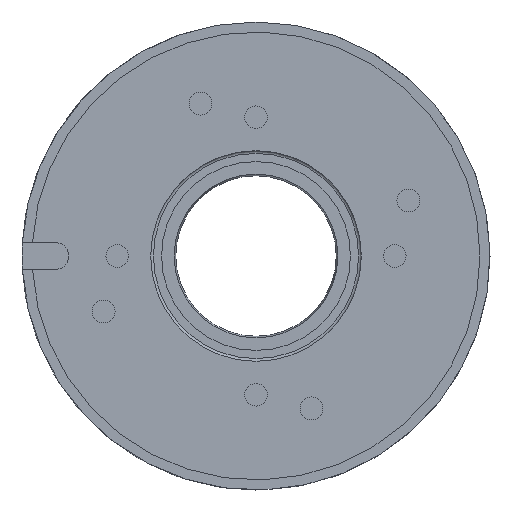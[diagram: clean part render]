
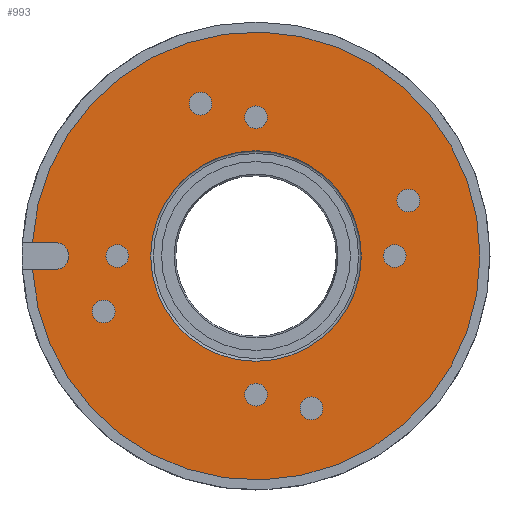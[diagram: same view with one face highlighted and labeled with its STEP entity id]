
A CAD part, left-side view. The second image highlights one B-rep face of the part: STEP entity #993.
In plain terms, the highlighted planar face has unit normal (-1, 0, 0).
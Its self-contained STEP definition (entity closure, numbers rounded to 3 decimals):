
#1 = DIRECTION ( 'NONE',  ( -1., 0., 0. ) ) ;
#14 = CARTESIAN_POINT ( 'NONE',  ( 0., 66.88, -4. ) ) ;
#56 = AXIS2_PLACEMENT_3D ( 'NONE', #516, #404, #1452 ) ;
#80 = VECTOR ( 'NONE', #1208, 1000. ) ;
#89 = CIRCLE ( 'NONE', #309, 3.4 ) ;
#112 = DIRECTION ( 'NONE',  ( 0., 0., 1. ) ) ;
#114 = CIRCLE ( 'NONE', #336, 3.4 ) ;
#126 = ORIENTED_EDGE ( 'NONE', *, *, #857, .F. ) ;
#133 = DIRECTION ( 'NONE',  ( -1., 0., 0. ) ) ;
#157 = CARTESIAN_POINT ( 'NONE',  ( 0., 0., -41.5 ) ) ;
#159 = EDGE_CURVE ( 'NONE', #683, #1004, #1533, .T. ) ;
#165 = FACE_BOUND ( 'NONE', #700, .T. ) ;
#167 = ORIENTED_EDGE ( 'NONE', *, *, #1572, .F. ) ;
#179 = VERTEX_POINT ( 'NONE', #665 ) ;
#191 = EDGE_CURVE ( 'NONE', #1403, #1004, #807, .T. ) ;
#207 = CARTESIAN_POINT ( 'NONE',  ( 0., -3.4, 41.5 ) ) ;
#217 = CIRCLE ( 'NONE', #1453, 3.4 ) ;
#257 = EDGE_CURVE ( 'NONE', #742, #742, #1478, .T. ) ;
#262 = DIRECTION ( 'NONE',  ( 0., 0., 1. ) ) ;
#277 = FACE_BOUND ( 'NONE', #1285, .T. ) ;
#309 = AXIS2_PLACEMENT_3D ( 'NONE', #1552, #632, #504 ) ;
#313 = DIRECTION ( 'NONE',  ( -1., 0., 0. ) ) ;
#330 = EDGE_LOOP ( 'NONE', ( #979 ) ) ;
#331 = EDGE_CURVE ( 'NONE', #520, #520, #898, .T. ) ;
#332 = AXIS2_PLACEMENT_3D ( 'NONE', #157, #313, #1073 ) ;
#334 = VERTEX_POINT ( 'NONE', #603 ) ;
#336 = AXIS2_PLACEMENT_3D ( 'NONE', #1642, #457, #1500 ) ;
#353 = EDGE_CURVE ( 'NONE', #1535, #1535, #843, .T. ) ;
#363 = ORIENTED_EDGE ( 'NONE', *, *, #353, .F. ) ;
#365 = DIRECTION ( 'NONE',  ( 0., 1., 0. ) ) ;
#395 = DIRECTION ( 'NONE',  ( 0., 0., 1. ) ) ;
#399 = CARTESIAN_POINT ( 'NONE',  ( 0., -13.188, -45.575 ) ) ;
#402 = CARTESIAN_POINT ( 'NONE',  ( 0., 45.575, -16.588 ) ) ;
#404 = DIRECTION ( 'NONE',  ( -1., 0., 0. ) ) ;
#413 = EDGE_LOOP ( 'NONE', ( #1050 ) ) ;
#415 = VERTEX_POINT ( 'NONE', #676 ) ;
#431 = FACE_BOUND ( 'NONE', #1129, .T. ) ;
#432 = EDGE_LOOP ( 'NONE', ( #1470 ) ) ;
#436 = FACE_BOUND ( 'NONE', #1381, .T. ) ;
#457 = DIRECTION ( 'NONE',  ( -1., 0., 0. ) ) ;
#470 = CIRCLE ( 'NONE', #630, 3.4 ) ;
#504 = DIRECTION ( 'NONE',  ( 0., 0., -1. ) ) ;
#511 = CARTESIAN_POINT ( 'NONE',  ( 0., 41.5, 3.4 ) ) ;
#516 = CARTESIAN_POINT ( 'NONE',  ( 0., 0., 0. ) ) ;
#520 = VERTEX_POINT ( 'NONE', #1560 ) ;
#523 = DIRECTION ( 'NONE',  ( -1., 0., 0. ) ) ;
#549 = EDGE_CURVE ( 'NONE', #683, #179, #1283, .T. ) ;
#551 = CARTESIAN_POINT ( 'NONE',  ( 0., 41.5, 0. ) ) ;
#562 = VERTEX_POINT ( 'NONE', #1614 ) ;
#568 = EDGE_LOOP ( 'NONE', ( #1162 ) ) ;
#595 = VERTEX_POINT ( 'NONE', #207 ) ;
#600 = VECTOR ( 'NONE', #901, 1000. ) ;
#603 = CARTESIAN_POINT ( 'NONE',  ( 0., -45.575, 13.188 ) ) ;
#620 = CARTESIAN_POINT ( 'NONE',  ( 0., 60., -4. ) ) ;
#630 = AXIS2_PLACEMENT_3D ( 'NONE', #1308, #523, #1577 ) ;
#632 = DIRECTION ( 'NONE',  ( -1., 0., 0. ) ) ;
#665 = CARTESIAN_POINT ( 'NONE',  ( 0., 60., -4. ) ) ;
#676 = CARTESIAN_POINT ( 'NONE',  ( 0., 13.188, 45.575 ) ) ;
#681 = FACE_BOUND ( 'NONE', #413, .T. ) ;
#683 = VERTEX_POINT ( 'NONE', #14 ) ;
#690 = FACE_BOUND ( 'NONE', #779, .T. ) ;
#700 = EDGE_LOOP ( 'NONE', ( #1275 ) ) ;
#703 = FACE_BOUND ( 'NONE', #330, .T. ) ;
#705 = EDGE_CURVE ( 'NONE', #1581, #1581, #714, .T. ) ;
#714 = CIRCLE ( 'NONE', #955, 3.4 ) ;
#742 = VERTEX_POINT ( 'NONE', #511 ) ;
#757 = EDGE_CURVE ( 'NONE', #562, #562, #217, .T. ) ;
#779 = EDGE_LOOP ( 'NONE', ( #1065 ) ) ;
#803 = CARTESIAN_POINT ( 'NONE',  ( 0., 3.4, -41.5 ) ) ;
#807 = LINE ( 'NONE', #914, #80 ) ;
#843 = CIRCLE ( 'NONE', #1179, 3.4 ) ;
#857 = EDGE_CURVE ( 'NONE', #179, #1403, #1484, .T. ) ;
#881 = EDGE_CURVE ( 'NONE', #415, #415, #470, .T. ) ;
#887 = DIRECTION ( 'NONE',  ( -1., 0., 0. ) ) ;
#898 = CIRCLE ( 'NONE', #924, 31.5 ) ;
#900 = CIRCLE ( 'NONE', #332, 3.4 ) ;
#901 = DIRECTION ( 'NONE',  ( 0., -1., 0. ) ) ;
#904 = CARTESIAN_POINT ( 'NONE',  ( 0., -16.588, -45.575 ) ) ;
#907 = DIRECTION ( 'NONE',  ( -1., 0., 0. ) ) ;
#914 = CARTESIAN_POINT ( 'NONE',  ( 0., 60., 4. ) ) ;
#924 = AXIS2_PLACEMENT_3D ( 'NONE', #1673, #887, #112 ) ;
#926 = VERTEX_POINT ( 'NONE', #803 ) ;
#941 = DIRECTION ( 'NONE',  ( -1., 0., 0. ) ) ;
#947 = CARTESIAN_POINT ( 'NONE',  ( 0., -31.5, 0. ) ) ;
#951 = AXIS2_PLACEMENT_3D ( 'NONE', #551, #907, #262 ) ;
#955 = AXIS2_PLACEMENT_3D ( 'NONE', #402, #1256, #1386 ) ;
#968 = EDGE_CURVE ( 'NONE', #926, #926, #900, .T. ) ;
#979 = ORIENTED_EDGE ( 'NONE', *, *, #705, .F. ) ;
#993 = ADVANCED_FACE ( 'NONE', ( #277, #436, #681, #1603, #165, #431, #703, #1232, #1207, #690 ), #1218, .T. ) ;
#1004 = VERTEX_POINT ( 'NONE', #1488 ) ;
#1050 = ORIENTED_EDGE ( 'NONE', *, *, #968, .F. ) ;
#1065 = ORIENTED_EDGE ( 'NONE', *, *, #331, .F. ) ;
#1073 = DIRECTION ( 'NONE',  ( 0., 1., 0. ) ) ;
#1080 = DIRECTION ( 'NONE',  ( 0., 0., 1. ) ) ;
#1129 = EDGE_LOOP ( 'NONE', ( #363 ) ) ;
#1150 = AXIS2_PLACEMENT_3D ( 'NONE', #1167, #1565, #395 ) ;
#1154 = EDGE_LOOP ( 'NONE', ( #1579, #1532, #1684, #126 ) ) ;
#1162 = ORIENTED_EDGE ( 'NONE', *, *, #257, .F. ) ;
#1167 = CARTESIAN_POINT ( 'NONE',  ( 0., 60., 0. ) ) ;
#1179 = AXIS2_PLACEMENT_3D ( 'NONE', #904, #1, #365 ) ;
#1190 = CARTESIAN_POINT ( 'NONE',  ( 0., -41.5, 0. ) ) ;
#1207 = FACE_OUTER_BOUND ( 'NONE', #1154, .T. ) ;
#1208 = DIRECTION ( 'NONE',  ( 0., 1., 0. ) ) ;
#1218 = PLANE ( 'NONE',  #1652 ) ;
#1232 = FACE_BOUND ( 'NONE', #568, .T. ) ;
#1256 = DIRECTION ( 'NONE',  ( -1., 0., 0. ) ) ;
#1275 = ORIENTED_EDGE ( 'NONE', *, *, #1661, .F. ) ;
#1283 = LINE ( 'NONE', #620, #600 ) ;
#1285 = EDGE_LOOP ( 'NONE', ( #167 ) ) ;
#1308 = CARTESIAN_POINT ( 'NONE',  ( 0., 16.588, 45.575 ) ) ;
#1357 = CARTESIAN_POINT ( 'NONE',  ( 0., 60., 4. ) ) ;
#1381 = EDGE_LOOP ( 'NONE', ( #1498 ) ) ;
#1386 = DIRECTION ( 'NONE',  ( 0., 0., 1. ) ) ;
#1403 = VERTEX_POINT ( 'NONE', #1357 ) ;
#1452 = DIRECTION ( 'NONE',  ( 0., 0., 1. ) ) ;
#1453 = AXIS2_PLACEMENT_3D ( 'NONE', #1190, #133, #1658 ) ;
#1457 = CARTESIAN_POINT ( 'NONE',  ( 0., 45.575, -13.188 ) ) ;
#1470 = ORIENTED_EDGE ( 'NONE', *, *, #881, .F. ) ;
#1478 = CIRCLE ( 'NONE', #951, 3.4 ) ;
#1484 = CIRCLE ( 'NONE', #1150, 4. ) ;
#1488 = CARTESIAN_POINT ( 'NONE',  ( 0., 66.88, 4. ) ) ;
#1498 = ORIENTED_EDGE ( 'NONE', *, *, #757, .F. ) ;
#1500 = DIRECTION ( 'NONE',  ( 0., -1., 0. ) ) ;
#1532 = ORIENTED_EDGE ( 'NONE', *, *, #159, .T. ) ;
#1533 = CIRCLE ( 'NONE', #56, 67. ) ;
#1535 = VERTEX_POINT ( 'NONE', #399 ) ;
#1552 = CARTESIAN_POINT ( 'NONE',  ( 0., -45.575, 16.588 ) ) ;
#1560 = CARTESIAN_POINT ( 'NONE',  ( 0., 0., 31.5 ) ) ;
#1565 = DIRECTION ( 'NONE',  ( -1., 0., 0. ) ) ;
#1572 = EDGE_CURVE ( 'NONE', #595, #595, #114, .T. ) ;
#1577 = DIRECTION ( 'NONE',  ( 0., -1., 0. ) ) ;
#1579 = ORIENTED_EDGE ( 'NONE', *, *, #549, .F. ) ;
#1581 = VERTEX_POINT ( 'NONE', #1457 ) ;
#1603 = FACE_BOUND ( 'NONE', #432, .T. ) ;
#1614 = CARTESIAN_POINT ( 'NONE',  ( 0., -41.5, -3.4 ) ) ;
#1642 = CARTESIAN_POINT ( 'NONE',  ( 0., 0., 41.5 ) ) ;
#1652 = AXIS2_PLACEMENT_3D ( 'NONE', #947, #941, #1080 ) ;
#1658 = DIRECTION ( 'NONE',  ( 0., 0., -1. ) ) ;
#1661 = EDGE_CURVE ( 'NONE', #334, #334, #89, .T. ) ;
#1673 = CARTESIAN_POINT ( 'NONE',  ( 0., 0., 0. ) ) ;
#1684 = ORIENTED_EDGE ( 'NONE', *, *, #191, .F. ) ;
